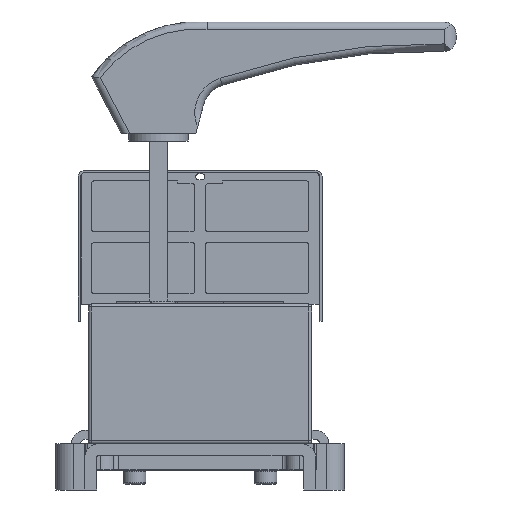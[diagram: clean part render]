
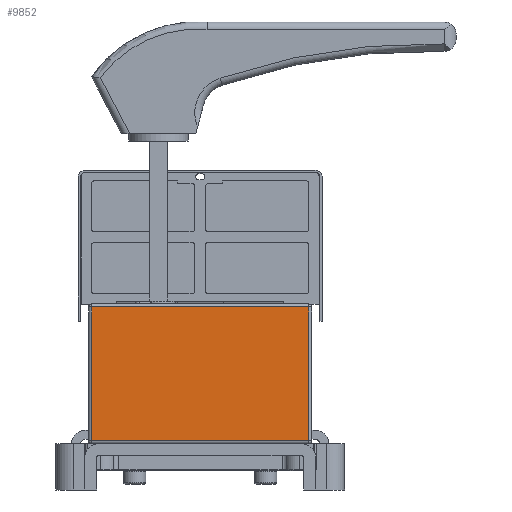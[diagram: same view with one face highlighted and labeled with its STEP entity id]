
A CAD part, left-side view. The second image highlights one B-rep face of the part: STEP entity #9852.
In plain terms, the highlighted planar face has unit normal (-1, 0, 0).
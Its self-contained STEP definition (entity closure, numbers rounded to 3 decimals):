
#3006=LINE('',#52333,#5854);
#3011=LINE('',#52354,#5859);
#3014=LINE('',#52377,#5862);
#3021=LINE('',#52387,#5869);
#5854=VECTOR('',#40316,1.);
#5859=VECTOR('',#40341,1.);
#5862=VECTOR('',#40370,1.);
#5869=VECTOR('',#40383,1.);
#6829=PLANE('',#32268);
#8254=FACE_OUTER_BOUND('',#12796,.T.);
#9852=ADVANCED_FACE('',(#8254),#6829,.F.);
#12796=EDGE_LOOP('',(#20470,#20471,#20472,#20473));
#20470=ORIENTED_EDGE('',*,*,#28221,.T.);
#20471=ORIENTED_EDGE('',*,*,#28203,.T.);
#20472=ORIENTED_EDGE('',*,*,#28214,.T.);
#20473=ORIENTED_EDGE('',*,*,#28192,.T.);
#24116=VERTEX_POINT('',#52319);
#24120=VERTEX_POINT('',#52330);
#24125=VERTEX_POINT('',#52347);
#24126=VERTEX_POINT('',#52351);
#28192=EDGE_CURVE('',#24120,#24116,#3006,.T.);
#28203=EDGE_CURVE('',#24126,#24125,#3011,.T.);
#28214=EDGE_CURVE('',#24125,#24120,#3014,.T.);
#28221=EDGE_CURVE('',#24116,#24126,#3021,.T.);
#32268=AXIS2_PLACEMENT_3D('',#52440,#40428,#40429);
#40316=DIRECTION('',(0.,1.,0.));
#40341=DIRECTION('',(0.,-1.,0.));
#40370=DIRECTION('',(0.,0.,1.));
#40383=DIRECTION('',(0.,0.,-1.));
#40428=DIRECTION('',(1.,0.,0.));
#40429=DIRECTION('',(0.,1.,0.));
#52319=CARTESIAN_POINT('',(-150.,73.,92.));
#52330=CARTESIAN_POINT('',(-150.,-73.,92.));
#52333=CARTESIAN_POINT('',(-150.,73.,92.));
#52347=CARTESIAN_POINT('',(-150.,-73.,2.));
#52351=CARTESIAN_POINT('',(-150.,73.,2.));
#52354=CARTESIAN_POINT('',(-150.,75.,2.));
#52377=CARTESIAN_POINT('',(-150.,-73.,94.));
#52387=CARTESIAN_POINT('',(-150.,73.,94.));
#52440=CARTESIAN_POINT('',(-150.,75.,94.));
